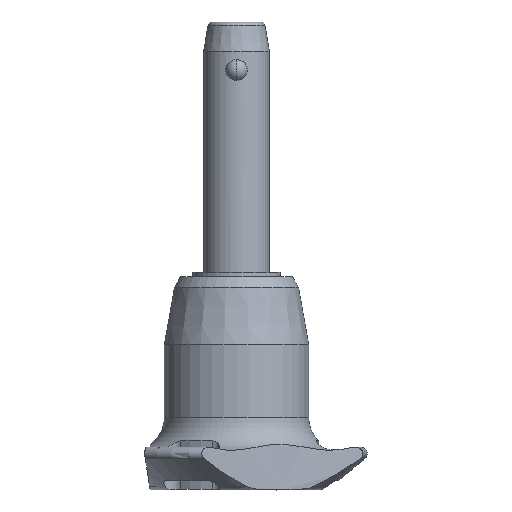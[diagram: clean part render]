
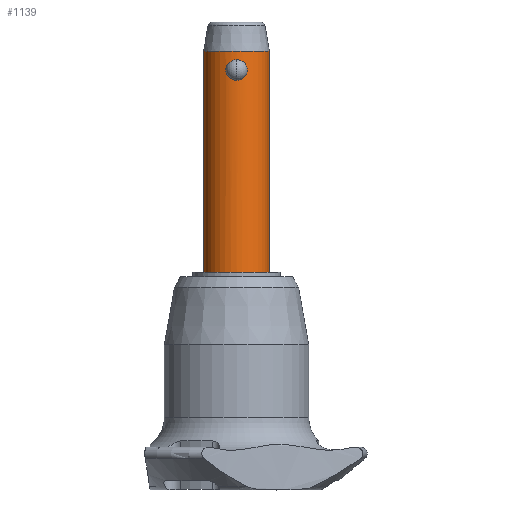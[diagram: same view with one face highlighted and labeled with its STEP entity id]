
A CAD part, front view. The second image highlights one B-rep face of the part: STEP entity #1139.
In plain terms, the highlighted cylindrical face has radius 6 mm (diameter 12 mm), a partial arc.
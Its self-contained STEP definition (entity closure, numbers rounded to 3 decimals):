
#21 = CARTESIAN_POINT ( 'NONE',  ( -0.62, -5.969, 3.619 ) ) ;
#70 = CIRCLE ( 'NONE', #877, 6. ) ;
#117 = AXIS2_PLACEMENT_3D ( 'NONE', #256, #2492, #1836 ) ;
#155 = CARTESIAN_POINT ( 'NONE',  ( 0., -6., 3.708 ) ) ;
#160 = CARTESIAN_POINT ( 'NONE',  ( -0.504, -5.983, 0.045 ) ) ;
#169 = VECTOR ( 'NONE', #1917, 1000. ) ;
#184 = CARTESIAN_POINT ( 'NONE',  ( -6., 0., -35. ) ) ;
#206 = CARTESIAN_POINT ( 'NONE',  ( 0., 0., -35. ) ) ;
#242 = CARTESIAN_POINT ( 'NONE',  ( -1.955, -5.673, 2.107 ) ) ;
#256 = CARTESIAN_POINT ( 'NONE',  ( 0., 0., 5.3 ) ) ;
#260 = FACE_OUTER_BOUND ( 'NONE', #2018, .T. ) ;
#339 = CARTESIAN_POINT ( 'NONE',  ( 0.855, -5.94, 3.53 ) ) ;
#358 = VERTEX_POINT ( 'NONE', #1914 ) ;
#362 = EDGE_LOOP ( 'NONE', ( #2407, #2393 ) ) ;
#367 = B_SPLINE_CURVE_WITH_KNOTS ( 'NONE', 3,
 ( #1616, #2460, #1362, #1340, #21, #2239, #2022, #966, #2708, #733, #1177, #2722, #745, #2217, #242, #1129, #1997, #909, #2672, #693, #1568, #2449, #1351, #2227, #2103, #160, #2371, #1293 ),
 .UNSPECIFIED., .F., .F.,
 ( 4, 2, 2, 2, 2, 2, 2, 2, 2, 2, 2, 2, 2, 4 ),
 ( 0., 0., 0.001, 0.001, 0.002, 0.002, 0.002, 0.003, 0.003, 0.004, 0.005, 0.005, 0.005, 0.006 ),
 .UNSPECIFIED. ) ;
#391 = CARTESIAN_POINT ( 'NONE',  ( 1.89, -5.695, 2.349 ) ) ;
#397 = CARTESIAN_POINT ( 'NONE',  ( 0.966, -5.923, 0.232 ) ) ;
#413 = LINE ( 'NONE', #1500, #169 ) ;
#460 = DIRECTION ( 'NONE',  ( 1., 0., 0. ) ) ;
#487 = CARTESIAN_POINT ( 'NONE',  ( 6., 0., -35. ) ) ;
#549 = DIRECTION ( 'NONE',  ( 1., 0., 0. ) ) ;
#559 = CARTESIAN_POINT ( 'NONE',  ( 1.178, -5.884, 3.346 ) ) ;
#590 = CARTESIAN_POINT ( 'NONE',  ( 1.551, -5.799, 3.018 ) ) ;
#614 = CARTESIAN_POINT ( 'NONE',  ( 1.749, -5.74, 1.007 ) ) ;
#633 = CARTESIAN_POINT ( 'NONE',  ( 0.853, -5.94, 0.177 ) ) ;
#693 = CARTESIAN_POINT ( 'NONE',  ( -1.7, -5.755, 0.895 ) ) ;
#733 = CARTESIAN_POINT ( 'NONE',  ( -1.46, -5.821, 3.103 ) ) ;
#740 = CARTESIAN_POINT ( 'NONE',  ( 0., 0., -35. ) ) ;
#745 = CARTESIAN_POINT ( 'NONE',  ( -1.75, -5.74, 2.7 ) ) ;
#746 = EDGE_CURVE ( 'NONE', #1700, #2730, #1526, .T. ) ;
#811 = VERTEX_POINT ( 'NONE', #487 ) ;
#835 = CARTESIAN_POINT ( 'NONE',  ( 0.503, -5.983, 0.045 ) ) ;
#841 = CARTESIAN_POINT ( 'NONE',  ( 0.252, -5.996, 3.697 ) ) ;
#849 = CARTESIAN_POINT ( 'NONE',  ( 0., -6., 0. ) ) ;
#863 = CARTESIAN_POINT ( 'NONE',  ( 1.178, -5.884, 0.362 ) ) ;
#877 = AXIS2_PLACEMENT_3D ( 'NONE', #740, #2524, #549 ) ;
#907 = EDGE_CURVE ( 'NONE', #1159, #1396, #367, .T. ) ;
#909 = CARTESIAN_POINT ( 'NONE',  ( -1.89, -5.695, 1.358 ) ) ;
#941 = EDGE_CURVE ( 'NONE', #811, #358, #413, .T. ) ;
#966 = CARTESIAN_POINT ( 'NONE',  ( -1.177, -5.884, 3.347 ) ) ;
#985 = CARTESIAN_POINT ( 'NONE',  ( -6., 0., 5.3 ) ) ;
#1029 = CARTESIAN_POINT ( 'NONE',  ( 1.7, -5.755, 2.812 ) ) ;
#1052 = ORIENTED_EDGE ( 'NONE', *, *, #746, .F. ) ;
#1054 = CARTESIAN_POINT ( 'NONE',  ( 1.459, -5.821, 0.604 ) ) ;
#1094 = DIRECTION ( 'NONE',  ( 0., 0., 1. ) ) ;
#1129 = CARTESIAN_POINT ( 'NONE',  ( -1.955, -5.673, 1.731 ) ) ;
#1139 = ADVANCED_FACE ( 'NONE', ( #260, #2428 ), #2233, .T. ) ;
#1159 = VERTEX_POINT ( 'NONE', #2454 ) ;
#1177 = CARTESIAN_POINT ( 'NONE',  ( -1.541, -5.799, 3.011 ) ) ;
#1225 = ORIENTED_EDGE ( 'NONE', *, *, #1597, .T. ) ;
#1228 = AXIS2_PLACEMENT_3D ( 'NONE', #206, #1094, #460 ) ;
#1257 = CARTESIAN_POINT ( 'NONE',  ( 1.279, -5.863, 3.27 ) ) ;
#1281 = CARTESIAN_POINT ( 'NONE',  ( 1.955, -5.673, 1.6 ) ) ;
#1293 = CARTESIAN_POINT ( 'NONE',  ( 0., -6., 0. ) ) ;
#1301 = CARTESIAN_POINT ( 'NONE',  ( 0., -6., 0. ) ) ;
#1325 = DIRECTION ( 'NONE',  ( 0., 0., 1. ) ) ;
#1340 = CARTESIAN_POINT ( 'NONE',  ( -0.498, -5.981, 3.652 ) ) ;
#1351 = CARTESIAN_POINT ( 'NONE',  ( -1.179, -5.884, 0.363 ) ) ;
#1359 = ORIENTED_EDGE ( 'NONE', *, *, #2767, .F. ) ;
#1362 = CARTESIAN_POINT ( 'NONE',  ( -0.252, -5.996, 3.697 ) ) ;
#1396 = VERTEX_POINT ( 'NONE', #1301 ) ;
#1433 = CARTESIAN_POINT ( 'NONE',  ( 1.851, -5.708, 2.47 ) ) ;
#1449 = VECTOR ( 'NONE', #1325, 1000. ) ;
#1466 = CARTESIAN_POINT ( 'NONE',  ( 0.966, -5.923, 3.476 ) ) ;
#1488 = CARTESIAN_POINT ( 'NONE',  ( 1.901, -5.692, 1.35 ) ) ;
#1500 = CARTESIAN_POINT ( 'NONE',  ( 6., 0., -35. ) ) ;
#1526 = LINE ( 'NONE', #184, #1449 ) ;
#1541 = B_SPLINE_CURVE_WITH_KNOTS ( 'NONE', 3,
 ( #849, #2608, #835, #633, #397, #863, #2136, #1054, #1711, #2593, #614, #1488, #1281, #2770, #2366, #391, #1433, #1029, #590, #1257, #559, #1466, #339, #2785, #2584, #841, #2314, #155 ),
 .UNSPECIFIED., .F., .F.,
 ( 4, 2, 2, 2, 2, 2, 2, 2, 2, 2, 2, 2, 2, 4 ),
 ( 0.006, 0.007, 0.007, 0.008, 0.008, 0.008, 0.009, 0.009, 0.01, 0.011, 0.011, 0.011, 0.012, 0.012 ),
 .UNSPECIFIED. ) ;
#1568 = CARTESIAN_POINT ( 'NONE',  ( -1.551, -5.799, 0.69 ) ) ;
#1597 = EDGE_CURVE ( 'NONE', #358, #2730, #2012, .T. ) ;
#1616 = CARTESIAN_POINT ( 'NONE',  ( 0., -6., 3.708 ) ) ;
#1700 = VERTEX_POINT ( 'NONE', #1925 ) ;
#1711 = CARTESIAN_POINT ( 'NONE',  ( 1.543, -5.799, 0.699 ) ) ;
#1836 = DIRECTION ( 'NONE',  ( 1., 0., 0. ) ) ;
#1914 = CARTESIAN_POINT ( 'NONE',  ( 6., 0., 5.3 ) ) ;
#1917 = DIRECTION ( 'NONE',  ( 0., 0., 1. ) ) ;
#1925 = CARTESIAN_POINT ( 'NONE',  ( -6., 0., -35. ) ) ;
#1997 = CARTESIAN_POINT ( 'NONE',  ( -1.942, -5.677, 1.604 ) ) ;
#2012 = CIRCLE ( 'NONE', #117, 6. ) ;
#2018 = EDGE_LOOP ( 'NONE', ( #1052, #1359, #2094, #1225 ) ) ;
#2022 = CARTESIAN_POINT ( 'NONE',  ( -0.966, -5.923, 3.476 ) ) ;
#2094 = ORIENTED_EDGE ( 'NONE', *, *, #941, .T. ) ;
#2103 = CARTESIAN_POINT ( 'NONE',  ( -0.853, -5.94, 0.177 ) ) ;
#2136 = CARTESIAN_POINT ( 'NONE',  ( 1.277, -5.863, 0.437 ) ) ;
#2217 = CARTESIAN_POINT ( 'NONE',  ( -1.9, -5.692, 2.359 ) ) ;
#2227 = CARTESIAN_POINT ( 'NONE',  ( -0.967, -5.923, 0.233 ) ) ;
#2229 = EDGE_CURVE ( 'NONE', #1396, #1159, #1541, .T. ) ;
#2233 = CYLINDRICAL_SURFACE ( 'NONE', #1228, 6. ) ;
#2239 = CARTESIAN_POINT ( 'NONE',  ( -0.854, -5.94, 3.53 ) ) ;
#2314 = CARTESIAN_POINT ( 'NONE',  ( 0.127, -6., 3.708 ) ) ;
#2366 = CARTESIAN_POINT ( 'NONE',  ( 1.942, -5.677, 2.103 ) ) ;
#2371 = CARTESIAN_POINT ( 'NONE',  ( -0.25, -6., 0. ) ) ;
#2393 = ORIENTED_EDGE ( 'NONE', *, *, #2229, .F. ) ;
#2407 = ORIENTED_EDGE ( 'NONE', *, *, #907, .F. ) ;
#2428 = FACE_BOUND ( 'NONE', #362, .T. ) ;
#2449 = CARTESIAN_POINT ( 'NONE',  ( -1.278, -5.863, 0.437 ) ) ;
#2454 = CARTESIAN_POINT ( 'NONE',  ( 0., -6., 3.708 ) ) ;
#2460 = CARTESIAN_POINT ( 'NONE',  ( -0.127, -6., 3.708 ) ) ;
#2492 = DIRECTION ( 'NONE',  ( 0., 0., -1. ) ) ;
#2524 = DIRECTION ( 'NONE',  ( 0., 0., -1. ) ) ;
#2584 = CARTESIAN_POINT ( 'NONE',  ( 0.498, -5.981, 3.652 ) ) ;
#2593 = CARTESIAN_POINT ( 'NONE',  ( 1.687, -5.758, 0.899 ) ) ;
#2608 = CARTESIAN_POINT ( 'NONE',  ( 0.25, -6., 0. ) ) ;
#2672 = CARTESIAN_POINT ( 'NONE',  ( -1.852, -5.707, 1.239 ) ) ;
#2708 = CARTESIAN_POINT ( 'NONE',  ( -1.278, -5.863, 3.271 ) ) ;
#2722 = CARTESIAN_POINT ( 'NONE',  ( -1.687, -5.759, 2.809 ) ) ;
#2730 = VERTEX_POINT ( 'NONE', #985 ) ;
#2767 = EDGE_CURVE ( 'NONE', #811, #1700, #70, .T. ) ;
#2770 = CARTESIAN_POINT ( 'NONE',  ( 1.955, -5.673, 1.979 ) ) ;
#2785 = CARTESIAN_POINT ( 'NONE',  ( 0.62, -5.969, 3.619 ) ) ;
